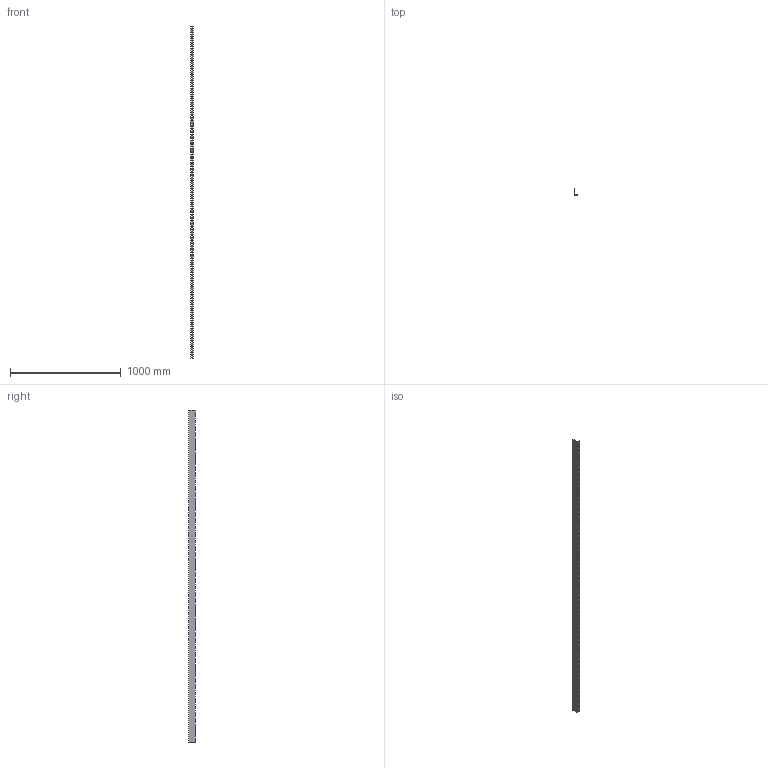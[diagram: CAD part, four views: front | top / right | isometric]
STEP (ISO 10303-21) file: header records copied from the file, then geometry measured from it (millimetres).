
FILE_DESCRIPTION (( 'STEP AP214' ), '1' );
FILE_NAME ('50B3H.step', '2025-02-21T10:27:56', ( '' ), ( '' ), 'SwSTEP 2.0', 'SolidWorks 2023', '' );
FILE_SCHEMA (( 'AUTOMOTIVE_DESIGN' ));
Length unit declared in the file: millimetre
Products named in the file (1): 50B3H
Bounding box: 22 x 58 x 3000 mm (x, y, z)
Volume: 180000 mm3; surface area: 458613.1 mm2
Topology: 1 solids, 1 shells, 296 faces, 882 edges, 588 vertices
Faces by surface type: plane 296
Entity records: 10037 total; most frequent: CARTESIAN_POINT 1767, ORIENTED_EDGE 1764, DIRECTION 1476, LINE 882, VECTOR 882, EDGE_CURVE 882, VERTEX_POINT 588, EDGE_LOOP 440
